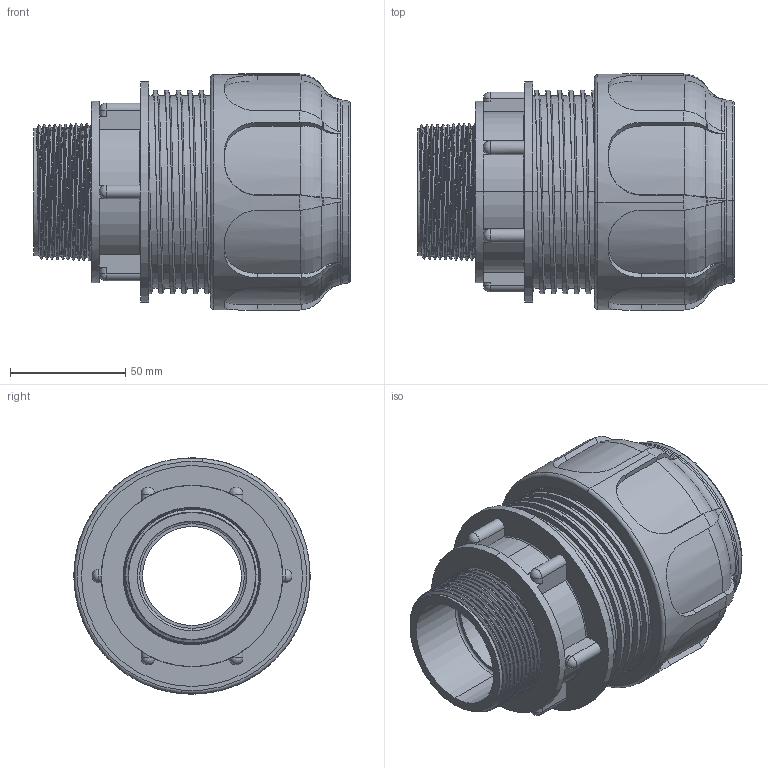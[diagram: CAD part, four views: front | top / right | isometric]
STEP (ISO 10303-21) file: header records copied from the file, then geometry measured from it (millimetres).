
FILE_DESCRIPTION (( 'STEP AP203' ), '1' );
FILE_NAME ('02004.1550.STEP', '2017-05-22T14:29:21', ( '' ), ( '' ), 'SwSTEP 2.0', 'SolidWorks 2011', '' );
FILE_SCHEMA (( 'CONFIG_CONTROL_DESIGN' ));
Length unit declared in the file: millimetre
Products named in the file (3): 02004.1550; 01711_5050; 01770_1550
Assembly tree (2 placements, depth 2):
  02004.1550
    01770_1550
    01711_5050
Bounding box: 137.51 x 102.6 x 102.6 mm (x, y, z)
Volume: 279868.4 mm3; surface area: 148392.8 mm2
Topology: 2 solids, 2 shells, 429 faces, 1497 edges, 1072 vertices
Faces by surface type: plane 132, cylinder 121, torus 104, cone 55, bspline 11, sphere 6
Entity records: 35825 total; most frequent: CARTESIAN_POINT 23762, ORIENTED_EDGE 2974, DIRECTION 1942, EDGE_CURVE 1487, VERTEX_POINT 1070, AXIS2_PLACEMENT_3D 790, B_SPLINE_CURVE_WITH_KNOTS 681, EDGE_LOOP 441
